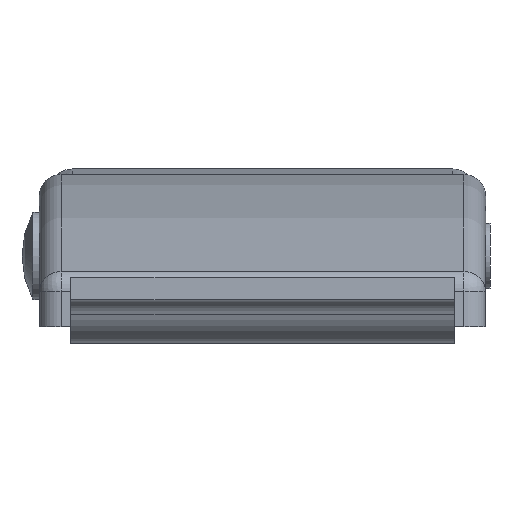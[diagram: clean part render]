
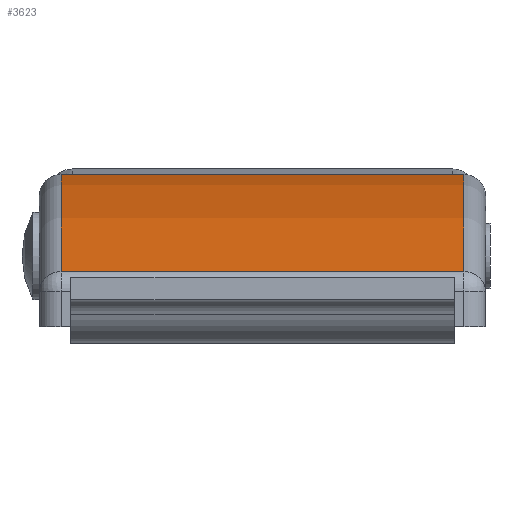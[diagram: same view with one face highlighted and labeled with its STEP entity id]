
A CAD part, left-side view. The second image highlights one B-rep face of the part: STEP entity #3623.
In plain terms, the highlighted cylindrical face has radius 51.22 mm (diameter 102.439 mm), a partial arc.
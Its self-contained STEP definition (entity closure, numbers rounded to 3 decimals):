
#333=FACE_OUTER_BOUND('',#562,.T.);
#562=EDGE_LOOP('',(#2588,#2589,#2590,#2591));
#850=LINE('',#5563,#1122);
#856=LINE('',#5609,#1128);
#1122=VECTOR('',#4399,18.5);
#1128=VECTOR('',#4437,18.5);
#1372=CIRCLE('',#3882,51.22);
#1374=CIRCLE('',#3885,51.22);
#1595=VERTEX_POINT('',#5557);
#1597=VERTEX_POINT('',#5561);
#1605=VERTEX_POINT('',#5588);
#1607=VERTEX_POINT('',#5607);
#1971=EDGE_CURVE('',#1597,#1595,#850,.T.);
#1984=EDGE_CURVE('',#1595,#1605,#1372,.T.);
#1987=EDGE_CURVE('',#1607,#1597,#1374,.T.);
#1988=EDGE_CURVE('',#1605,#1607,#856,.T.);
#2588=ORIENTED_EDGE('',*,*,#1971,.F.);
#2589=ORIENTED_EDGE('',*,*,#1987,.F.);
#2590=ORIENTED_EDGE('',*,*,#1988,.F.);
#2591=ORIENTED_EDGE('',*,*,#1984,.F.);
#3520=CYLINDRICAL_SURFACE('',#3884,51.22);
#3623=ADVANCED_FACE('',(#333),#3520,.T.);
#3882=AXIS2_PLACEMENT_3D('',#5589,#4429,#4430);
#3884=AXIS2_PLACEMENT_3D('',#5606,#4433,#4434);
#3885=AXIS2_PLACEMENT_3D('',#5608,#4435,#4436);
#4399=DIRECTION('',(0.,0.,-1.));
#4429=DIRECTION('center_axis',(0.,0.,-1.));
#4430=DIRECTION('ref_axis',(-0.215,0.977,0.));
#4433=DIRECTION('center_axis',(0.,0.,1.));
#4434=DIRECTION('ref_axis',(0.,1.,0.));
#4435=DIRECTION('center_axis',(0.,0.,1.));
#4436=DIRECTION('ref_axis',(-0.215,0.977,0.));
#4437=DIRECTION('',(0.,0.,1.));
#5557=CARTESIAN_POINT('',(-25.658,-0.712,-9.25));
#5561=CARTESIAN_POINT('',(-25.658,-0.712,9.25));
#5563=CARTESIAN_POINT('',(-25.658,-0.712,0.));
#5588=CARTESIAN_POINT('',(-4.75,3.75,-9.25));
#5589=CARTESIAN_POINT('Origin',(-4.75,-47.47,-9.25));
#5606=CARTESIAN_POINT('Origin',(-4.75,-47.47,0.));
#5607=CARTESIAN_POINT('',(-4.75,3.75,9.25));
#5608=CARTESIAN_POINT('Origin',(-4.75,-47.47,9.25));
#5609=CARTESIAN_POINT('',(-4.75,3.75,0.));
